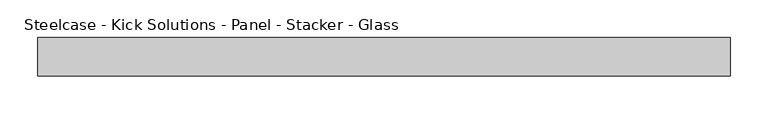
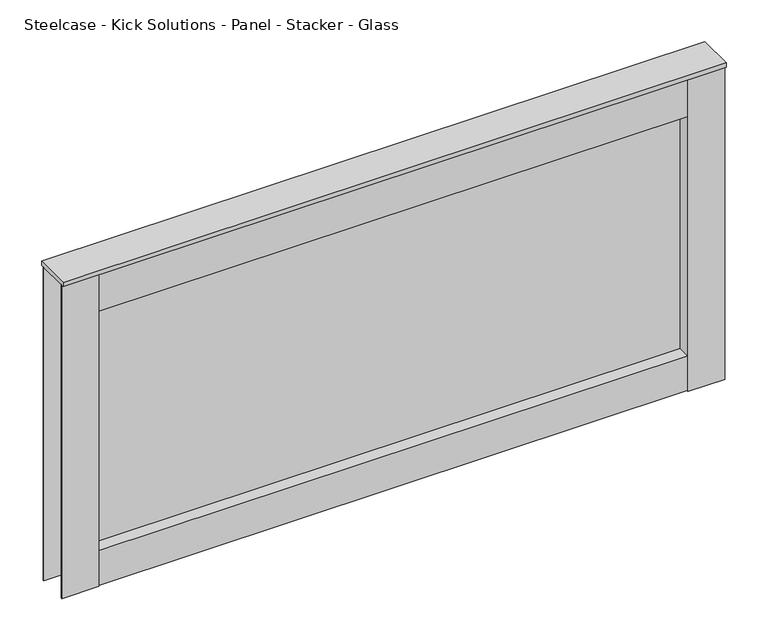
"""IFC4 building model written with IfcOpenShell, lengths in millimetres: furniture geometry, Steelcase - Kick Solutions - Panel - Stacker - Glass : 18H x 36W."""

from ifc_helpers import new_model, si_unit, frame, origin, place, context, project, spatial, polyline, outline, extrude, source, transform, mapped, element, save


def steelcase_kick_solutions_panel_stacker_glass_7e9793de(model_context):
    return source(origin(), model_context, "Body", "SweptSolid", [
        extrude(outline(polyline([(863.6006661, -5.08), (863.6006661, -45.7200015), (50.8006646, -45.7200015), (50.8006646, -5.08), (863.6006661, -5.08)])), frame((0.0, 0.0, 1066.8), z_axis=(0.0, 0.0, 1.0), x_axis=(1.0, 0.0, 0.0)), (0.0, 0.0, 1.0), 50.6830951),
        extrude(outline(polyline([(863.6006661, -5.08), (863.6006661, -45.7200015), (50.8006646, -45.7200015), (50.8006646, -5.08), (863.6006661, -5.08)])), frame((0.0, 0.0, 1466.85), z_axis=(0.0, 0.0, 1.0), x_axis=(1.0, 0.0, 0.0)), (0.0, 0.0, 1.0), 57.15),
        extrude(outline(polyline([(50.8006646, -3.1743148), (50.8006646, -47.6243142), (0.0, -47.6243142), (0.0, -45.7200015), (47.7526646, -45.7200015), (47.7526646, -5.08), (0.0, -5.08), (0.0, -3.1743148), (50.8006646, -3.1743148)])), frame((0.0, 0.0, 1066.8), z_axis=(0.0, 0.0, 1.0), x_axis=(1.0, 0.0, 0.0)), (0.0, 0.0, 1.0), 457.2),
        extrude(outline(polyline([(863.6006661, -3.1743148), (914.4, -3.1743148), (914.4, -5.08), (866.6486661, -5.08), (866.6486661, -45.7200015), (914.4, -45.7200015), (914.4, -47.6243142), (863.6006661, -47.6243142), (863.6006661, -3.1743148)])), frame((0.0, 0.0, 1066.8), z_axis=(0.0, 0.0, 1.0), x_axis=(1.0, 0.0, 0.0)), (0.0, 0.0, 1.0), 457.2),
        extrude(outline(polyline([(863.6006661, -28.422537), (50.8006646, -28.422537), (50.8006646, -25.4), (863.6006661, -25.4), (863.6006661, -28.422537)])), frame((0.0, 0.0, 1117.4830951), z_axis=(0.0, 0.0, 1.0), x_axis=(1.0, 0.0, 0.0)), (0.0, 0.0, 1.0), 349.3669049),
        extrude(outline(polyline([(914.4, 0.0), (914.4, -50.8000015), (0.0, -50.8000015), (0.0, 0.0), (914.4, 0.0)])), frame((0.0, 0.0, 1524.0), z_axis=(0.0, 0.0, 1.0), x_axis=(1.0, 0.0, 0.0)), (0.0, 0.0, 1.0), 6.35),
    ])


if __name__ == "__main__":
    model = new_model("IFC4")
    model_context = context("Model", 3, world=origin())
    ifc_project = project(units=[si_unit("LENGTHUNIT", "METRE", prefix="MILLI")], contexts=[model_context])
    site = spatial("IfcSite", under=ifc_project)
    building = spatial("IfcBuilding", under=site)
    placement = place(None, origin())
    steelcase_kick_solutions_panel_stacker_glass_shape = steelcase_kick_solutions_panel_stacker_glass_7e9793de(model_context)
    element("IfcFurniture", 1, ObjectType="Steelcase - Kick Solutions - Panel - Stacker - Glass : 18H x 36W", at=placement, inside=building, context=model_context, shape_type="MappedRepresentation", body=[
        mapped(steelcase_kick_solutions_panel_stacker_glass_shape, transform((0.0, 0.0, 0.0), x_axis=(1.0, 0.0, 0.0), y_axis=(0.0, 1.0, 0.0), z_axis=(0.0, 0.0, 1.0))),
    ])
    save(model, "model.ifc")
